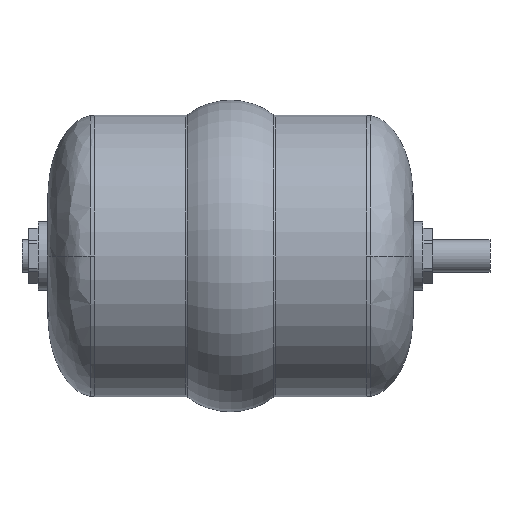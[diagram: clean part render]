
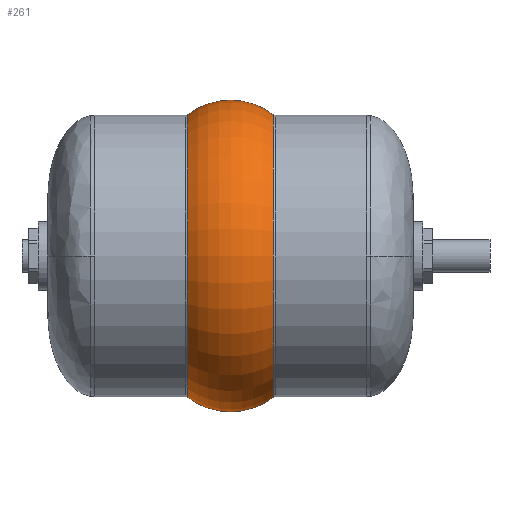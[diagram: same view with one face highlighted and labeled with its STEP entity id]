
A CAD part, front view. The second image highlights one B-rep face of the part: STEP entity #261.
In plain terms, the highlighted toroidal (fillet/blend) face has major radius 51.8 mm and minor radius 42.95 mm.
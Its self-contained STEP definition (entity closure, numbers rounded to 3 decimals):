
#34 = AXIS2_PLACEMENT_3D ( 'NONE', #1259, #1238, #1233 ) ;
#84 = DIRECTION ( 'NONE',  ( 0., 0., -1. ) ) ;
#93 = DIRECTION ( 'NONE',  ( 0., -1., 0. ) ) ;
#105 = CARTESIAN_POINT ( 'NONE',  ( -6.211, -2., 51.8 ) ) ;
#261 = ADVANCED_FACE ( 'NONE', ( #1389 ), #1879, .T. ) ;
#270 = CIRCLE ( 'NONE', #1206, 86.102 ) ;
#495 = DIRECTION ( 'NONE',  ( 0., 0., -1. ) ) ;
#503 = DIRECTION ( 'NONE',  ( 1., 0., 0. ) ) ;
#515 = CARTESIAN_POINT ( 'NONE',  ( -32.058, -2., 0. ) ) ;
#590 = AXIS2_PLACEMENT_3D ( 'NONE', #1082, #1104, #1069 ) ;
#609 = CIRCLE ( 'NONE', #34, 42.95 ) ;
#611 = CIRCLE ( 'NONE', #1613, 42.95 ) ;
#736 = CARTESIAN_POINT ( 'NONE',  ( -32.058, -2., -86.102 ) ) ;
#840 = DIRECTION ( 'NONE',  ( 0., 0., 1. ) ) ;
#846 = DIRECTION ( 'NONE',  ( -1., 0., 0. ) ) ;
#855 = CARTESIAN_POINT ( 'NONE',  ( 19.637, -2., 0. ) ) ;
#971 = CARTESIAN_POINT ( 'NONE',  ( 19.637, -2., 86.102 ) ) ;
#1020 = CARTESIAN_POINT ( 'NONE',  ( 19.637, -2., -86.102 ) ) ;
#1069 = DIRECTION ( 'NONE',  ( 0., 0., 1. ) ) ;
#1082 = CARTESIAN_POINT ( 'NONE',  ( -6.211, -2., 0. ) ) ;
#1098 = EDGE_LOOP ( 'NONE', ( #1914, #1449, #1536, #2316 ) ) ;
#1104 = DIRECTION ( 'NONE',  ( -1., 0., 0. ) ) ;
#1206 = AXIS2_PLACEMENT_3D ( 'NONE', #515, #503, #495 ) ;
#1233 = DIRECTION ( 'NONE',  ( 0., 0., 1. ) ) ;
#1238 = DIRECTION ( 'NONE',  ( 0., 1., 0. ) ) ;
#1254 = VERTEX_POINT ( 'NONE', #1020 ) ;
#1259 = CARTESIAN_POINT ( 'NONE',  ( -6.211, -2., -51.8 ) ) ;
#1284 = AXIS2_PLACEMENT_3D ( 'NONE', #855, #846, #840 ) ;
#1297 = CIRCLE ( 'NONE', #1284, 86.102 ) ;
#1389 = FACE_OUTER_BOUND ( 'NONE', #1098, .T. ) ;
#1425 = VERTEX_POINT ( 'NONE', #1462 ) ;
#1449 = ORIENTED_EDGE ( 'NONE', *, *, #1990, .T. ) ;
#1450 = EDGE_CURVE ( 'NONE', #1254, #2020, #609, .T. ) ;
#1462 = CARTESIAN_POINT ( 'NONE',  ( -32.058, -2., 86.102 ) ) ;
#1536 = ORIENTED_EDGE ( 'NONE', *, *, #1755, .T. ) ;
#1613 = AXIS2_PLACEMENT_3D ( 'NONE', #105, #93, #84 ) ;
#1755 = EDGE_CURVE ( 'NONE', #2203, #1425, #611, .T. ) ;
#1879 = TOROIDAL_SURFACE ( 'NONE', #590, 51.8, 42.95 ) ;
#1914 = ORIENTED_EDGE ( 'NONE', *, *, #1450, .F. ) ;
#1990 = EDGE_CURVE ( 'NONE', #1254, #2203, #1297, .T. ) ;
#2019 = EDGE_CURVE ( 'NONE', #1425, #2020, #270, .T. ) ;
#2020 = VERTEX_POINT ( 'NONE', #736 ) ;
#2203 = VERTEX_POINT ( 'NONE', #971 ) ;
#2316 = ORIENTED_EDGE ( 'NONE', *, *, #2019, .T. ) ;
